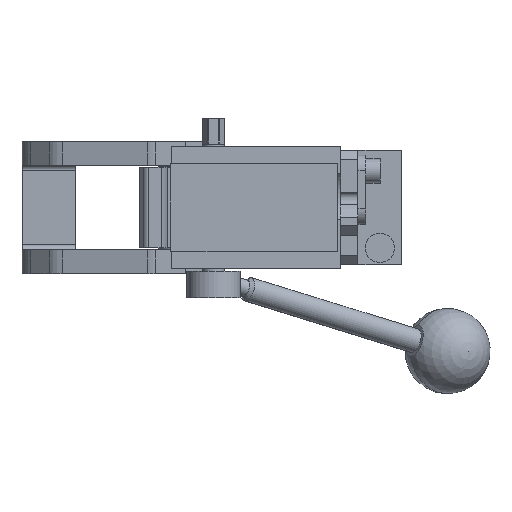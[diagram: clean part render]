
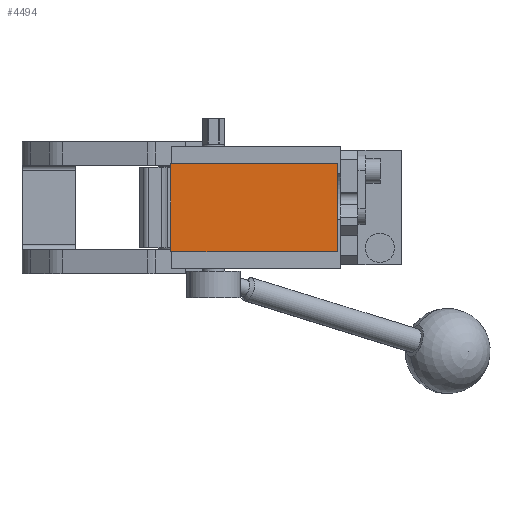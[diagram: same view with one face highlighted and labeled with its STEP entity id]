
A CAD part, front view. The second image highlights one B-rep face of the part: STEP entity #4494.
In plain terms, the highlighted planar face has unit normal (0, -1, 0).
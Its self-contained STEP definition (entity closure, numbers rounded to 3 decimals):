
#65 = EDGE_CURVE ( 'NONE', #4422, #5190, #14759, .T. ) ;
#161 = ORIENTED_EDGE ( 'NONE', *, *, #7774, .T. ) ;
#199 = VECTOR ( 'NONE', #16550, 1000. ) ;
#205 = DIRECTION ( 'NONE',  ( 0., -1., 0. ) ) ;
#531 = AXIS2_PLACEMENT_3D ( 'NONE', #9599, #205, #9522 ) ;
#748 = VECTOR ( 'NONE', #16528, 1000. ) ;
#1233 = ORIENTED_EDGE ( 'NONE', *, *, #13728, .T. ) ;
#3281 = DIRECTION ( 'NONE',  ( 0., 0., -1. ) ) ;
#4422 = VERTEX_POINT ( 'NONE', #12810 ) ;
#4494 = ADVANCED_FACE ( 'NONE', ( #5548 ), #12185, .T. ) ;
#4756 = CARTESIAN_POINT ( 'NONE',  ( -6., -233., 18. ) ) ;
#5034 = CARTESIAN_POINT ( 'NONE',  ( -6., -233., -18. ) ) ;
#5190 = VERTEX_POINT ( 'NONE', #5034 ) ;
#5481 = CARTESIAN_POINT ( 'NONE',  ( -6., -233., -18. ) ) ;
#5548 = FACE_OUTER_BOUND ( 'NONE', #13258, .T. ) ;
#6027 = LINE ( 'NONE', #8444, #748 ) ;
#7613 = EDGE_CURVE ( 'NONE', #14907, #4422, #11288, .T. ) ;
#7774 = EDGE_CURVE ( 'NONE', #13762, #14907, #6027, .T. ) ;
#8057 = ORIENTED_EDGE ( 'NONE', *, *, #7613, .T. ) ;
#8444 = CARTESIAN_POINT ( 'NONE',  ( 62., -233., 18. ) ) ;
#9459 = DIRECTION ( 'NONE',  ( 1., 0., 0. ) ) ;
#9522 = DIRECTION ( 'NONE',  ( 0., 0., -1. ) ) ;
#9599 = CARTESIAN_POINT ( 'NONE',  ( 0., -233., 0. ) ) ;
#11288 = LINE ( 'NONE', #4756, #199 ) ;
#11775 = LINE ( 'NONE', #5481, #16264 ) ;
#12185 = PLANE ( 'NONE',  #531 ) ;
#12810 = CARTESIAN_POINT ( 'NONE',  ( -6., -233., 18. ) ) ;
#13258 = EDGE_LOOP ( 'NONE', ( #16298, #1233, #161, #8057 ) ) ;
#13728 = EDGE_CURVE ( 'NONE', #5190, #13762, #11775, .T. ) ;
#13762 = VERTEX_POINT ( 'NONE', #15749 ) ;
#14759 = LINE ( 'NONE', #15093, #16852 ) ;
#14907 = VERTEX_POINT ( 'NONE', #15633 ) ;
#15093 = CARTESIAN_POINT ( 'NONE',  ( -6., -233., 18. ) ) ;
#15633 = CARTESIAN_POINT ( 'NONE',  ( 62., -233., 18. ) ) ;
#15749 = CARTESIAN_POINT ( 'NONE',  ( 62., -233., -18. ) ) ;
#16264 = VECTOR ( 'NONE', #9459, 1000. ) ;
#16298 = ORIENTED_EDGE ( 'NONE', *, *, #65, .T. ) ;
#16528 = DIRECTION ( 'NONE',  ( 0., 0., 1. ) ) ;
#16550 = DIRECTION ( 'NONE',  ( -1., 0., 0. ) ) ;
#16852 = VECTOR ( 'NONE', #3281, 1000. ) ;
